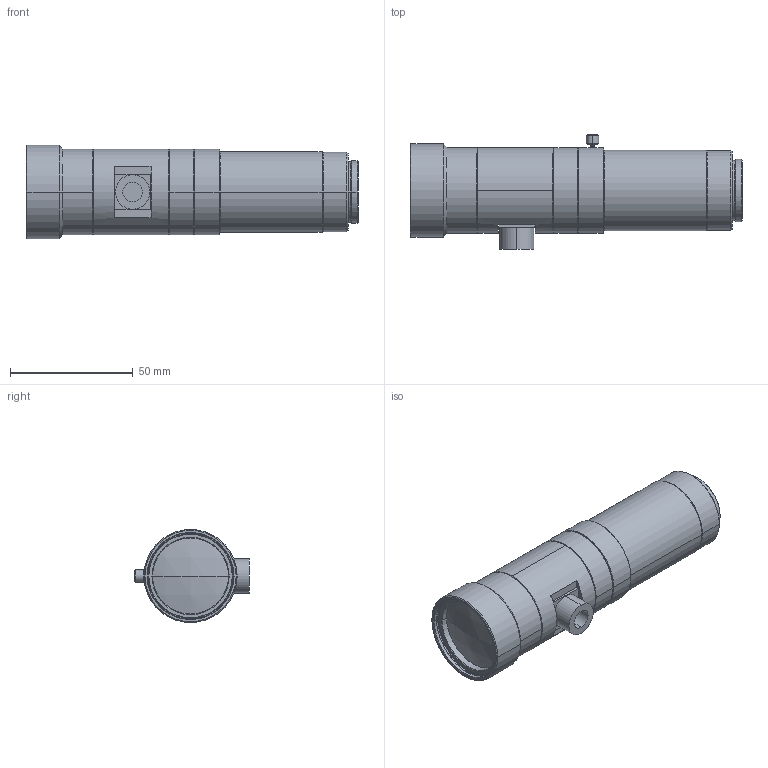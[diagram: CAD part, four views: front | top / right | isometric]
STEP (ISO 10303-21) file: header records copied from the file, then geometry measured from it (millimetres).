
FILE_DESCRIPTION (( 'STEP AP203' ), '1' );
FILE_NAME ('VS-THV1.5-110CO_S-SWIR.STEP', '2020-09-09T08:57:58', ( '' ), ( '' ), 'SwSTEP 2.0', 'SolidWorks 2018', '' );
FILE_SCHEMA (( 'CONFIG_CONTROL_DESIGN' ));
Length unit declared in the file: millimetre
Products named in the file (1): VS-THV1.5-110CO_S-SWIR
Bounding box: 135.42 x 46.8 x 38 mm (x, y, z)
Volume: 91064.2 mm3; surface area: 27932.2 mm2
Topology: 4 solids, 4 shells, 157 faces, 313 edges, 184 vertices
Faces by surface type: cone 72, cylinder 48, plane 33, sphere 4
Entity records: 4148 total; most frequent: DIRECTION 797, CARTESIAN_POINT 689, ORIENTED_EDGE 626, AXIS2_PLACEMENT_3D 330, EDGE_CURVE 313, VERTEX_POINT 184, EDGE_LOOP 179, CIRCLE 172
